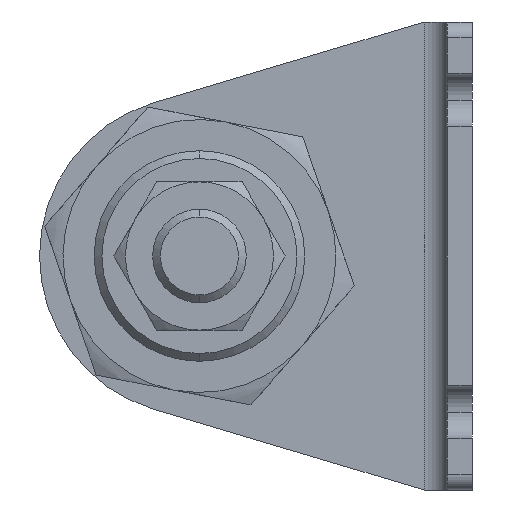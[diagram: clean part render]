
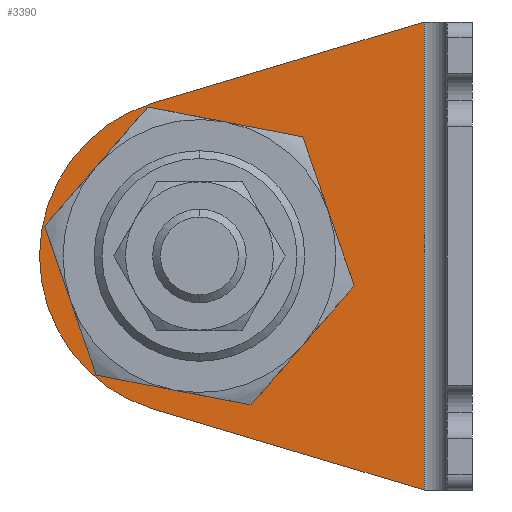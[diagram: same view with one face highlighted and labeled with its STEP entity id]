
A CAD part, left-side view. The second image highlights one B-rep face of the part: STEP entity #3390.
In plain terms, the highlighted planar face has unit normal (-1, 0, 0) as drawn and (1, 0, 0) by its records, which use the part's own axes.
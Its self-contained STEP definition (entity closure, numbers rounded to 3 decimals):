
#11 = DIRECTION ( 'NONE',  ( 0., 0.958, -0.286 ) ) ;
#31 = DIRECTION ( 'NONE',  ( 0., 1., 0. ) ) ;
#204 = CARTESIAN_POINT ( 'NONE',  ( 3.2, 48.5, -30. ) ) ;
#364 = LINE ( 'NONE', #2885, #935 ) ;
#417 = DIRECTION ( 'NONE',  ( 1., 0., 0. ) ) ;
#431 = DIRECTION ( 'NONE',  ( 0., 1., 0. ) ) ;
#492 = CARTESIAN_POINT ( 'NONE',  ( 3.2, 6.2, -60. ) ) ;
#522 = DIRECTION ( 'NONE',  ( 0., 1., 0. ) ) ;
#637 = DIRECTION ( 'NONE',  ( 0., 1., 0. ) ) ;
#685 = ORIENTED_EDGE ( 'NONE', *, *, #3162, .F. ) ;
#813 = CARTESIAN_POINT ( 'NONE',  ( 3.2, 40.868, -49.642 ) ) ;
#923 = ORIENTED_EDGE ( 'NONE', *, *, #1533, .T. ) ;
#935 = VECTOR ( 'NONE', #4400, 1000. ) ;
#986 = CIRCLE ( 'NONE', #1515, 13.5 ) ;
#1144 = CARTESIAN_POINT ( 'NONE',  ( 3.2, 35., -30. ) ) ;
#1213 = EDGE_CURVE ( 'NONE', #3821, #1920, #2995, .T. ) ;
#1224 = VERTEX_POINT ( 'NONE', #3890 ) ;
#1297 = CARTESIAN_POINT ( 'NONE',  ( 3.2, 3.2, -60. ) ) ;
#1306 = EDGE_CURVE ( 'NONE', #1224, #4460, #3458, .T. ) ;
#1316 = VECTOR ( 'NONE', #11, 1000. ) ;
#1515 = AXIS2_PLACEMENT_3D ( 'NONE', #3589, #1656, #431 ) ;
#1533 = EDGE_CURVE ( 'NONE', #1920, #3352, #3231, .T. ) ;
#1656 = DIRECTION ( 'NONE',  ( 1., 0., 0. ) ) ;
#1792 = CARTESIAN_POINT ( 'NONE',  ( 3.2, 35., -30. ) ) ;
#1794 = DIRECTION ( 'NONE',  ( 1., 0., 0. ) ) ;
#1889 = CARTESIAN_POINT ( 'NONE',  ( 3.2, 40.868, -10.358 ) ) ;
#1890 = CARTESIAN_POINT ( 'NONE',  ( 3.2, 21.5, -30. ) ) ;
#1920 = VERTEX_POINT ( 'NONE', #4334 ) ;
#2102 = AXIS2_PLACEMENT_3D ( 'NONE', #3153, #1794, #31 ) ;
#2105 = DIRECTION ( 'NONE',  ( 0., 1., 0. ) ) ;
#2454 = CARTESIAN_POINT ( 'NONE',  ( 3.2, 6.2, -60. ) ) ;
#2460 = DIRECTION ( 'NONE',  ( 1., 0., 0. ) ) ;
#2517 = ORIENTED_EDGE ( 'NONE', *, *, #3163, .F. ) ;
#2530 = FACE_OUTER_BOUND ( 'NONE', #3746, .T. ) ;
#2594 = CIRCLE ( 'NONE', #2787, 13.5 ) ;
#2711 = AXIS2_PLACEMENT_3D ( 'NONE', #1792, #417, #637 ) ;
#2787 = AXIS2_PLACEMENT_3D ( 'NONE', #1144, #4047, #2105 ) ;
#2863 = CARTESIAN_POINT ( 'NONE',  ( 3.2, 19.903, -4.094 ) ) ;
#2885 = CARTESIAN_POINT ( 'NONE',  ( 3.2, 3.446, -60.823 ) ) ;
#2995 = CIRCLE ( 'NONE', #2102, 20.5 ) ;
#3023 = EDGE_CURVE ( 'NONE', #1224, #3352, #3641, .T. ) ;
#3119 = EDGE_LOOP ( 'NONE', ( #685, #2517 ) ) ;
#3153 = CARTESIAN_POINT ( 'NONE',  ( 3.2, 35., -30. ) ) ;
#3162 = EDGE_CURVE ( 'NONE', #3800, #3770, #986, .T. ) ;
#3163 = EDGE_CURVE ( 'NONE', #3770, #3800, #2594, .T. ) ;
#3217 = AXIS2_PLACEMENT_3D ( 'NONE', #1297, #2460, #522 ) ;
#3231 = CIRCLE ( 'NONE', #2711, 20.5 ) ;
#3240 = PLANE ( 'NONE',  #3217 ) ;
#3268 = EDGE_CURVE ( 'NONE', #4460, #3821, #364, .T. ) ;
#3352 = VERTEX_POINT ( 'NONE', #1889 ) ;
#3390 = ADVANCED_FACE ( 'NONE', ( #4469, #2530 ), #3240, .T. ) ;
#3458 = LINE ( 'NONE', #2454, #4001 ) ;
#3553 = ORIENTED_EDGE ( 'NONE', *, *, #3023, .F. ) ;
#3589 = CARTESIAN_POINT ( 'NONE',  ( 3.2, 35., -30. ) ) ;
#3641 = LINE ( 'NONE', #2863, #1316 ) ;
#3746 = EDGE_LOOP ( 'NONE', ( #4012, #4039, #923, #3553, #3956 ) ) ;
#3770 = VERTEX_POINT ( 'NONE', #1890 ) ;
#3800 = VERTEX_POINT ( 'NONE', #204 ) ;
#3821 = VERTEX_POINT ( 'NONE', #813 ) ;
#3890 = CARTESIAN_POINT ( 'NONE',  ( 3.2, 6.2, 0. ) ) ;
#3956 = ORIENTED_EDGE ( 'NONE', *, *, #1306, .T. ) ;
#4001 = VECTOR ( 'NONE', #4386, 1000. ) ;
#4012 = ORIENTED_EDGE ( 'NONE', *, *, #3268, .T. ) ;
#4039 = ORIENTED_EDGE ( 'NONE', *, *, #1213, .T. ) ;
#4047 = DIRECTION ( 'NONE',  ( 1., 0., 0. ) ) ;
#4334 = CARTESIAN_POINT ( 'NONE',  ( 3.2, 55.5, -30. ) ) ;
#4386 = DIRECTION ( 'NONE',  ( 0., 0., -1. ) ) ;
#4400 = DIRECTION ( 'NONE',  ( 0., 0.958, 0.286 ) ) ;
#4460 = VERTEX_POINT ( 'NONE', #492 ) ;
#4469 = FACE_BOUND ( 'NONE', #3119, .T. ) ;
